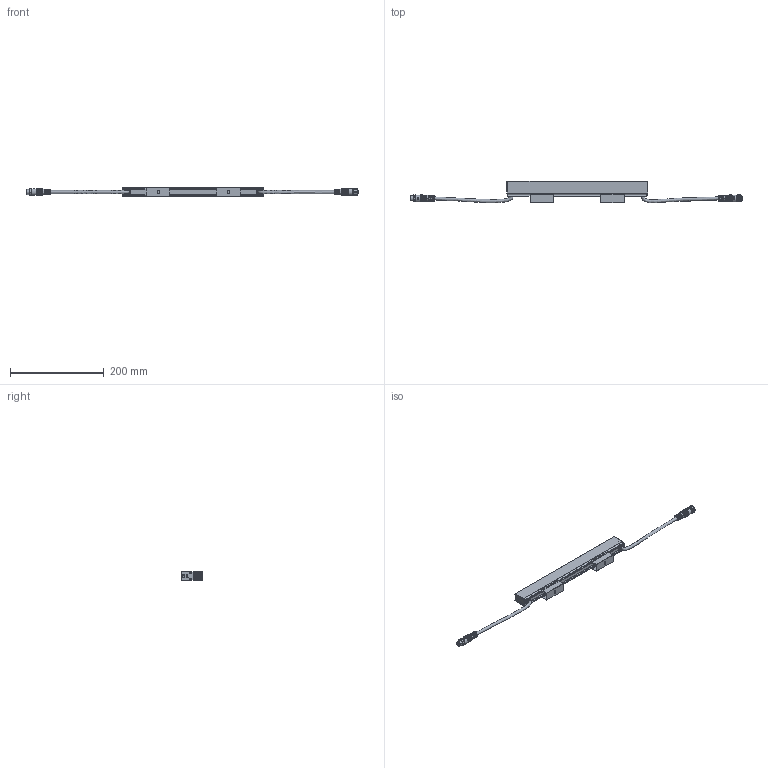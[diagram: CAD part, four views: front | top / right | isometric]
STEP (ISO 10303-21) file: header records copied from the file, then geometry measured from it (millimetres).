
FILE_DESCRIPTION (( 'STEP AP214' ), '1' );
FILE_NAME ('DiGi Linear V-Series L300 Flat.STEP', '2025-07-22T11:39:49', ( '' ), ( '' ), 'SwSTEP 2.0', 'SolidWorks 2025', '' );
FILE_SCHEMA (( 'AUTOMOTIVE_DESIGN' ));
Length unit declared in the file: millimetre
Products named in the file (7): DiGi Linear V-Series L300 Flat; DiGi Linear V-serie - Body_L300 Flat; M12 3p Male; DiGi Linear V-serie - Cabling_L300; DiGi Linear V-serie - Clip; Counter sunk screw torx_M2x6; M12 3p Female
Assembly tree (10 placements, depth 2):
  DiGi Linear V-Series L300 Flat
    DiGi Linear V-serie - Body_L300 Flat
    DiGi Linear V-serie - Clip  x2
    M12 3p Male
    M12 3p Female
    DiGi Linear V-serie - Cabling_L300
    Counter sunk screw torx_M2x6  x4
Bounding box: 707.4 x 46 x 18.3 mm (x, y, z)
Volume: 184179.6 mm3; surface area: 60607.4 mm2
Topology: 13 solids, 13 shells, 1281 faces, 3215 edges, 2004 vertices
Faces by surface type: plane 490, cylinder 354, bspline 184, torus 161, cone 80, sphere 12
Full cylindrical faces by diameter (mm): 2 x4, 2.4 x4, 3 x4, 6.5 x6, 9.7 x1, 10 x2, 10.8 x1, 12.3 x1, 14.3 x2
Entity records: 53818 total; most frequent: CARTESIAN_POINT 17185, ORIENTED_EDGE 5798, DIRECTION 4799, EDGE_CURVE 2899, VERTEX_POINT 1820, AXIS2_PLACEMENT_3D 1808, EDGE_LOOP 1277, FACE_OUTER_BOUND 1205
